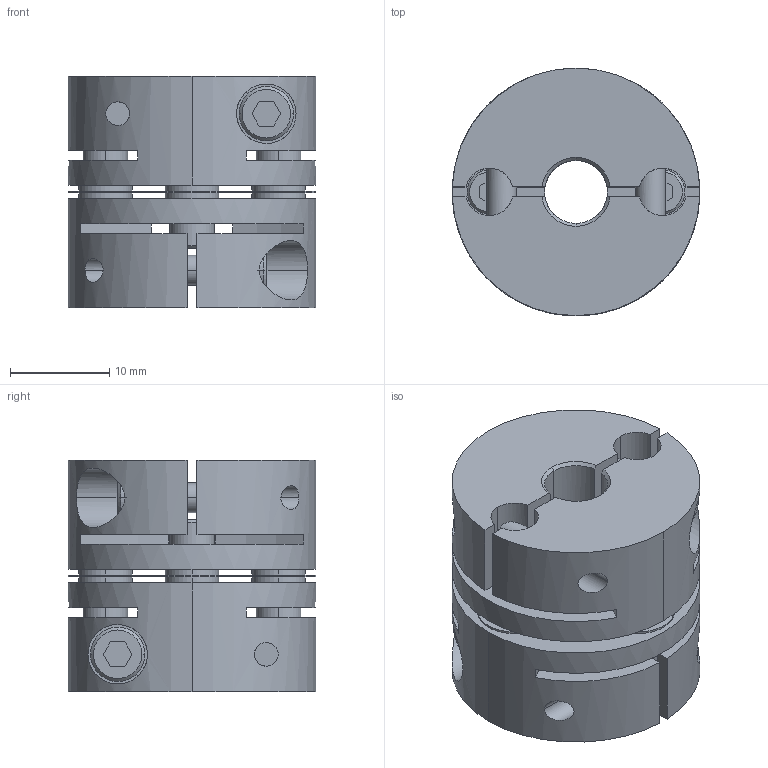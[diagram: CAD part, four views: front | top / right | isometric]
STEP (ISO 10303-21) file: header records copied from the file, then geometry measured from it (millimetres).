
FILE_DESCRIPTION((''),'2;1');
FILE_NAME('LAS-25C-6.35×9.525.stp','2011-08-10T10:23:18',(''),(''),'AutoCAD STEP 2000i','AutoCAD 2000i',', , ');
FILE_SCHEMA(('CONFIG_CONTROL_DESIGN'));
Length unit declared in the file: millimetre
Products named in the file (5): LAS-25C-6×6; 忣兜1; LA-2502-D06-1; LA-2502-D06; LAS25-ITA
Assembly tree (4 placements, depth 2):
  LAS-25C-6×6
    忣兜1
    LA-2502-D06-1
    LA-2502-D06
    LAS25-ITA
Bounding box: 25 x 25 x 23.4 mm (x, y, z)
Volume: 8409.8 mm3; surface area: 6847.6 mm2
Topology: 1 solids, 1 shells, 244 faces, 648 edges, 424 vertices
Faces by surface type: plane 112, cylinder 104, cone 28
Entity records: 8499 total; most frequent: CARTESIAN_POINT 2121, DIRECTION 1326, ORIENTED_EDGE 1296, EDGE_CURVE 648, AXIS2_PLACEMENT_3D 485, VERTEX_POINT 424, VECTOR 356, LINE 356
